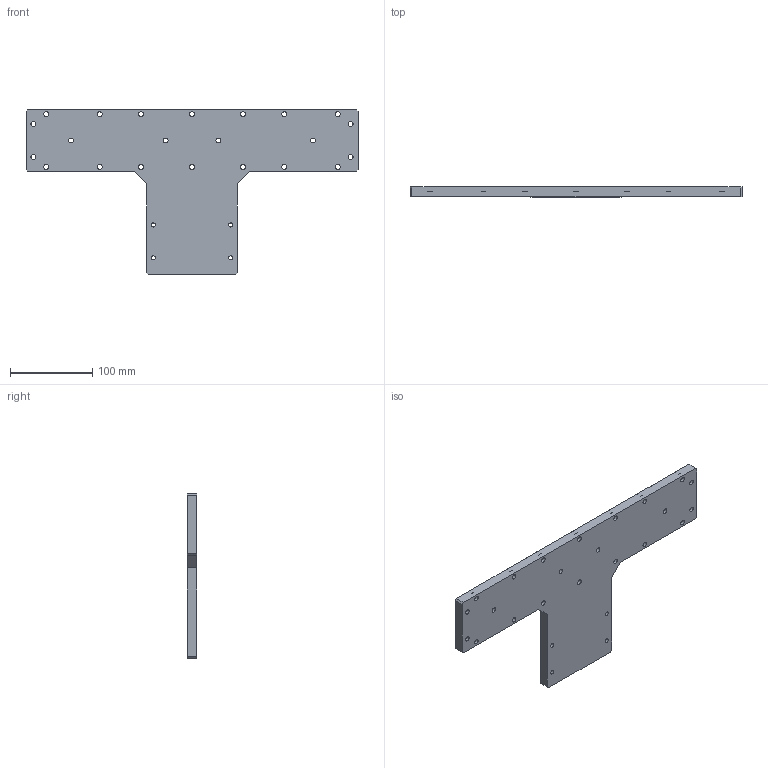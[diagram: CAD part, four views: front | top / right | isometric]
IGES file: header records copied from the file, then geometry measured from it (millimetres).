
Start section:  PTC IGES file: k80-k80l-ft.igs
Global section: file name: k80-k80l-ft.igs; native system: Pro/ENGINEER by Parametric Technology Corporation; preprocessor: 2008230; author: Owner; organization: Unknown; date: 20121212.110205; units: millimetre
Bounding box: 403 x 12 x 200 mm (x, y, z)
Surface area: 108955.3 mm2 (no closed solid volume)
Topology: 0 solids, 0 shells, 136 faces, 716 edges, 711 vertices
Faces by surface type: revolution 96, bspline 40
